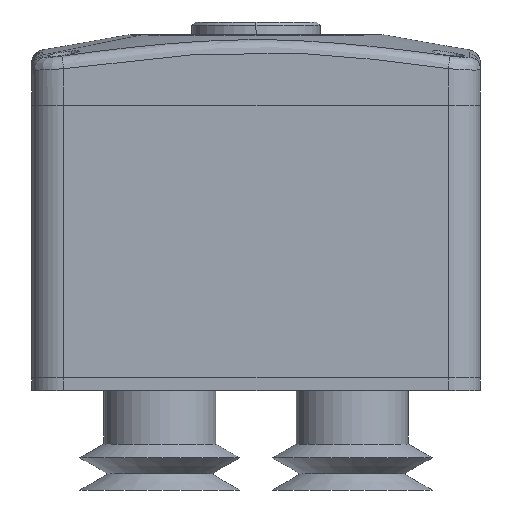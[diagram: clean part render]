
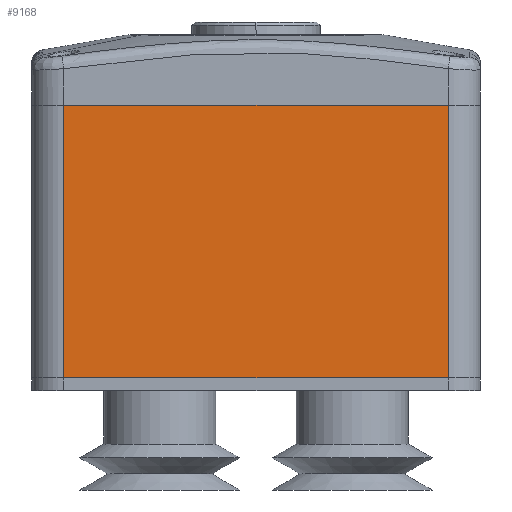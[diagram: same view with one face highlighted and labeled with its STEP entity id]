
A CAD part, left-side view. The second image highlights one B-rep face of the part: STEP entity #9168.
In plain terms, the highlighted planar face has unit normal (-1, 0, 0) as drawn and (0, 1, 0) by its records, which use the part's own axes.
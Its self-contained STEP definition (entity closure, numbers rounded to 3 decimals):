
#498 = ORIENTED_EDGE ( 'NONE', *, *, #15884, .T. ) ;
#1059 = DIRECTION ( 'NONE',  ( 1., 0., 0. ) ) ;
#2857 = VERTEX_POINT ( 'NONE', #15275 ) ;
#3461 = EDGE_LOOP ( 'NONE', ( #498, #8337, #5171, #11393 ) ) ;
#3585 = VERTEX_POINT ( 'NONE', #11878 ) ;
#4073 = CARTESIAN_POINT ( 'NONE',  ( 30., 26., 12. ) ) ;
#4079 = DIRECTION ( 'NONE',  ( 0., 0., 1. ) ) ;
#4150 = VECTOR ( 'NONE', #6729, 1000. ) ;
#4554 = LINE ( 'NONE', #8178, #11569 ) ;
#5171 = ORIENTED_EDGE ( 'NONE', *, *, #17622, .F. ) ;
#5484 = PLANE ( 'NONE',  #14037 ) ;
#5923 = VECTOR ( 'NONE', #4079, 1000. ) ;
#6729 = DIRECTION ( 'NONE',  ( 1., 0., 0. ) ) ;
#6749 = DIRECTION ( 'NONE',  ( 0., 0., -1. ) ) ;
#6753 = FACE_OUTER_BOUND ( 'NONE', #3461, .T. ) ;
#7058 = LINE ( 'NONE', #4073, #13843 ) ;
#7499 = EDGE_CURVE ( 'NONE', #9692, #2857, #7058, .T. ) ;
#8178 = CARTESIAN_POINT ( 'NONE',  ( 0., 26., 32.5 ) ) ;
#8337 = ORIENTED_EDGE ( 'NONE', *, *, #7499, .F. ) ;
#9168 = ADVANCED_FACE ( 'NONE', ( #6753 ), #5484, .F. ) ;
#9692 = VERTEX_POINT ( 'NONE', #14012 ) ;
#10675 = LINE ( 'NONE', #11278, #5923 ) ;
#11273 = DIRECTION ( 'NONE',  ( 0., 0., 1. ) ) ;
#11278 = CARTESIAN_POINT ( 'NONE',  ( -30., 26., 12. ) ) ;
#11393 = ORIENTED_EDGE ( 'NONE', *, *, #14688, .T. ) ;
#11569 = VECTOR ( 'NONE', #1059, 1000. ) ;
#11878 = CARTESIAN_POINT ( 'NONE',  ( -30., 26., 32.5 ) ) ;
#12500 = CARTESIAN_POINT ( 'NONE',  ( 0., 26., -10. ) ) ;
#12515 = CARTESIAN_POINT ( 'NONE',  ( -30., 26., -10. ) ) ;
#13843 = VECTOR ( 'NONE', #11273, 1000. ) ;
#14012 = CARTESIAN_POINT ( 'NONE',  ( 30., 26., -10. ) ) ;
#14037 = AXIS2_PLACEMENT_3D ( 'NONE', #17118, #15443, #6749 ) ;
#14688 = EDGE_CURVE ( 'NONE', #17070, #3585, #10675, .T. ) ;
#15275 = CARTESIAN_POINT ( 'NONE',  ( 30., 26., 32.5 ) ) ;
#15443 = DIRECTION ( 'NONE',  ( 0., -1., 0. ) ) ;
#15482 = LINE ( 'NONE', #12500, #4150 ) ;
#15884 = EDGE_CURVE ( 'NONE', #3585, #2857, #4554, .T. ) ;
#17070 = VERTEX_POINT ( 'NONE', #12515 ) ;
#17118 = CARTESIAN_POINT ( 'NONE',  ( -35., 26., 0. ) ) ;
#17622 = EDGE_CURVE ( 'NONE', #17070, #9692, #15482, .T. ) ;
